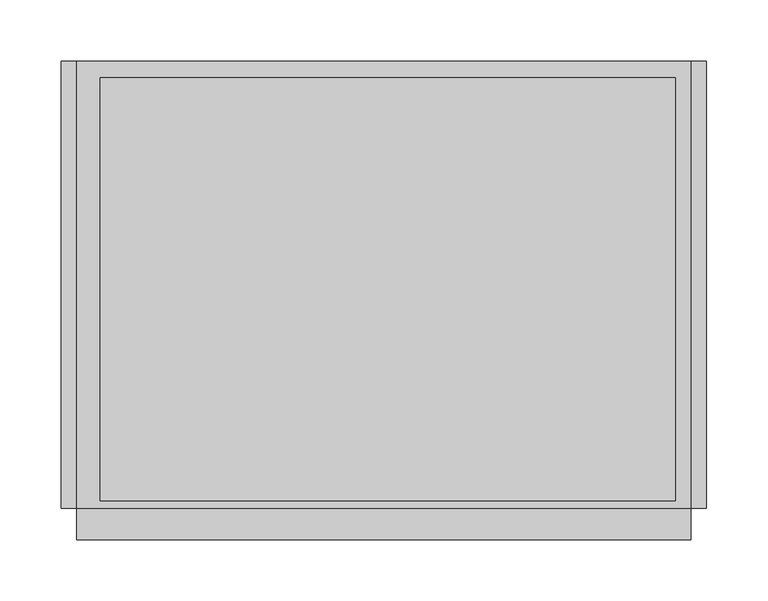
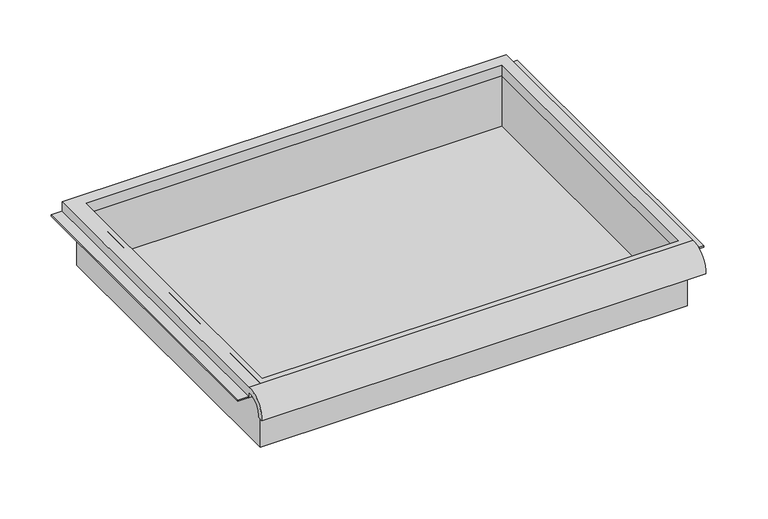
"""IFC4 building model written with IfcOpenShell, lengths in millimetres: furniture geometry."""

from ifc_helpers import new_model, si_unit, frame, origin, place, context, project, spatial, polyline, circle_curve, faceted_brep, source, transform, mapped, element, save
from ifc_brep_helpers import plane_surface, cylinder_surface, revolved_surface, advanced_brep


def furniture_5a4074e1(model_context):
    return source(origin(), model_context, "Body", "SolidModel", [
        advanced_brep(
        [(263.7474999, -195.297482, 738.9824118), (263.7474999, -188.9125, 738.9824118), (263.7474999, -169.8625, 757.243885), (263.7474999, -169.8625, 750.8938846), (263.7474999, 195.2625, 750.8938846), (263.7474999, 195.2625, 763.593885), (263.7474999, -169.8625, 763.593885), (-237.9025001, -195.297482, 738.9824118), (-237.9025001, -169.8625, 763.593885), (-237.9025001, 195.2625, 763.593885), (-237.9025001, 195.2625, 750.8938846), (-237.9025001, -169.8625, 750.8938846), (-237.9025001, -169.8625, 757.243885), (-237.9025001, -188.9125, 738.9824118), (251.0474878, 181.9275, 750.8938846), (-218.8095642, 181.9275, 750.8938846), (-218.8095642, -163.5125, 750.8938846), (251.0474878, -163.5125, 750.8938846), (-218.8095642, 181.9275, 763.593885), (251.0474878, 181.9275, 763.593885), (251.0474878, -163.5125, 763.593885), (-218.8095642, -163.5125, 763.593885)],
        [
            (0, 1),
            (1, 2, circle_curve(frame((263.7474999, -172.3404634, 740.7618222), z_axis=(-1.0, 0.0, 0.0), x_axis=(0.0, 1.0, 0.0)), 16.6672942)),
            (2, 3),
            (3, 4),
            (4, 5),
            (5, 6),
            (6, 0, circle_curve(frame((263.7474999, -172.4601678, 740.8297122), z_axis=(1.0, 0.0, 0.0), x_axis=(0.0, 1.0, 0.0)), 22.9119061)),
            (7, 8, circle_curve(frame((-237.9025001, -172.4601678, 740.8297122), z_axis=(-1.0, 0.0, 0.0), x_axis=(0.0, 1.0, 0.0)), 22.9119061)),
            (8, 9),
            (9, 10),
            (10, 11),
            (11, 12),
            (12, 13, circle_curve(frame((-237.9025001, -172.3404634, 740.7618222), z_axis=(1.0, 0.0, 0.0), x_axis=(0.0, 1.0, 0.0)), 16.6672942)),
            (13, 7),
            (0, 7),
            (13, 1),
            (12, 2),
            (11, 3),
            (10, 4),
            (14, 15),
            (15, 16),
            (16, 17),
            (17, 14),
            (9, 5),
            (8, 6),
            (18, 19),
            (19, 20),
            (20, 21),
            (21, 18),
            (14, 19),
            (18, 15),
            (21, 16),
            (20, 17),
        ],
        [
            plane_surface(frame((263.7474999, -195.297482, 738.9824118), z_axis=(1.0, 0.0, 0.0), x_axis=(0.0, 1.0, 0.0))),
            plane_surface(frame((-237.9025001, -195.297482, 738.9824118), z_axis=(-1.0, 0.0, 0.0), x_axis=(0.0, -1.0, 0.0))),
            plane_surface(frame((263.7474999, -195.297482, 738.9824118), z_axis=(0.0, 0.0, -1.0), x_axis=(-1.0, 0.0, 0.0))),
            revolved_surface(polyline([(-237.9025001, -155.67316920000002, 740.7618222), (263.7474999, -155.67316920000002, 740.7618222)]), (-237.9025001, -172.3404634, 740.7618222), (-1.0, 0.0, 0.0)),
            plane_surface(frame((263.7474999, -169.8625, 757.243885), z_axis=(0.0, -1.0, 0.0), x_axis=(-1.0, 0.0, 0.0))),
            plane_surface(frame((263.7474999, -169.8625, 750.8938846), z_axis=(0.0, 0.0, -1.0), x_axis=(-1.0, 0.0, 0.0))),
            plane_surface(frame((263.7474999, 195.2625, 750.8938846), z_axis=(0.0, 1.0, 0.0), x_axis=(-1.0, 0.0, 0.0))),
            plane_surface(frame((263.7474999, 195.2625, 763.593885), z_axis=(0.0, 0.0, 1.0), x_axis=(-1.0, 0.0, 0.0))),
            cylinder_surface(frame((-237.9025001, -172.4601678, 740.8297122), z_axis=(1.0, 0.0, 0.0), x_axis=(0.0, 1.0, 0.0)), 22.9119061),
            plane_surface(frame((251.0474878, 181.9275, 763.593885), z_axis=(0.0, -1.0, 0.0), x_axis=(0.0, 0.0, -1.0))),
            plane_surface(frame((-218.8095642, 181.9275, 763.593885), z_axis=(1.0, 0.0, 0.0), x_axis=(0.0, 0.0, -1.0))),
            plane_surface(frame((-218.8095642, -163.5125, 763.593885), z_axis=(0.0, 1.0, 0.0), x_axis=(0.0, 0.0, -1.0))),
            plane_surface(frame((251.0474878, -163.5125, 763.593885), z_axis=(-1.0, 0.0, 0.0), x_axis=(0.0, 0.0, -1.0))),
        ],
        [
            (0, [[1, 2, 3, 4, 5, 6, 7]]),
            (1, [[8, 9, 10, 11, 12, 13, 14]]),
            (2, [[-1, 15, -14, 16]]),
            (3, [[-2, -16, -13, 17]]),
            (4, [[-3, -17, -12, 18]]),
            (5, [[-4, -18, -11, 19], [20, 21, 22, 23]]),
            (6, [[-5, -19, -10, 24]]),
            (7, [[-6, -24, -9, 25], [26, 27, 28, 29]]),
            (8, [[-7, -25, -8, -15]]),
            (9, [[30, -26, 31, -20]]),
            (10, [[-31, -29, 32, -21]]),
            (11, [[-32, -28, 33, -22]]),
            (12, [[-30, -23, -33, -27]]),
        ],
    ),
        faceted_brep([(-225.2025001, -169.8625, 687.393885), (257.3974878, -169.8625, 687.393885), (257.3974878, -169.8625, 763.593885), (-225.2025001, -169.8625, 763.593885), (-225.2025001, 188.9125, 687.393885), (-225.2025001, 188.9125, 763.593885), (257.3974878, 188.9125, 763.593885), (257.3974878, 188.9125, 687.393885), (-218.8095642, 181.9275, 763.593885), (251.0474878, 181.9275, 763.593885), (251.0474878, -163.5125, 763.593885), (-218.8095642, -163.5125, 763.593885), (251.0474878, 181.9275, 690.568885), (-218.8095642, 181.9275, 690.568885), (-218.8095642, -163.5125, 690.568885), (251.0474878, -163.5125, 690.568885)], [[[0, 1, 2, 3]], [[4, 5, 6, 7]], [[1, 0, 4, 7]], [[2, 1, 7, 6]], [[3, 2, 6, 5], [8, 9, 10, 11]], [[0, 3, 5, 4]], [[12, 13, 14, 15]], [[13, 12, 9, 8]], [[14, 13, 8, 11]], [[15, 14, 11, 10]], [[12, 15, 10, 9]]]),
        faceted_brep([(-250.6025001, 195.2625, 750.8938846), (-250.6025001, 195.2625, 752.4813846), (-231.5525001, 195.2625, 752.4813846), (-231.5525001, 195.2625, 750.8938846), (-250.6025001, -169.8625, 750.8938846), (-231.5525001, -169.8625, 750.8938846), (-231.5525001, -169.8625, 752.4813846), (-250.6025001, -169.8625, 752.4813846)], [[[0, 1, 2, 3]], [[4, 5, 6, 7]], [[1, 0, 4, 7]], [[2, 1, 7, 6]], [[3, 2, 6, 5]], [[0, 3, 5, 4]]]),
        faceted_brep([(276.4474999, 195.2625, 750.8938846), (263.7474999, 195.2625, 750.8938846), (263.7474999, 195.2625, 752.4813846), (276.4474999, 195.2625, 752.4813846), (276.4474999, -169.8625, 750.8938846), (276.4474999, -169.8625, 752.4813846), (263.7474999, -169.8625, 752.4813846), (263.7474999, -169.8625, 750.8938846)], [[[0, 1, 2, 3]], [[4, 5, 6, 7]], [[1, 0, 4, 7]], [[2, 1, 7, 6]], [[3, 2, 6, 5]], [[0, 3, 5, 4]]]),
    ])


if __name__ == "__main__":
    model = new_model("IFC4")
    model_context = context("Model", 3, world=origin())
    ifc_project = project(units=[si_unit("LENGTHUNIT", "METRE", prefix="MILLI")], contexts=[model_context])
    site = spatial("IfcSite", under=ifc_project)
    building = spatial("IfcBuilding", under=site)
    placement = place(None, origin())
    furniture_shape = furniture_5a4074e1(model_context)
    element("IfcFurniture", 1, ObjectType="HermanMiller_Carts_CT501_Drawer : 3\"H x 15\"D x 20\"W", at=placement, inside=building, context=model_context, shape_type="MappedRepresentation", body=[
        mapped(furniture_shape, transform((0.0, 0.0, 0.0), x_axis=(1.0, 0.0, 0.0), y_axis=(0.0, 1.0, 0.0), z_axis=(0.0, 0.0, 1.0))),
    ])
    save(model, "model.ifc")
